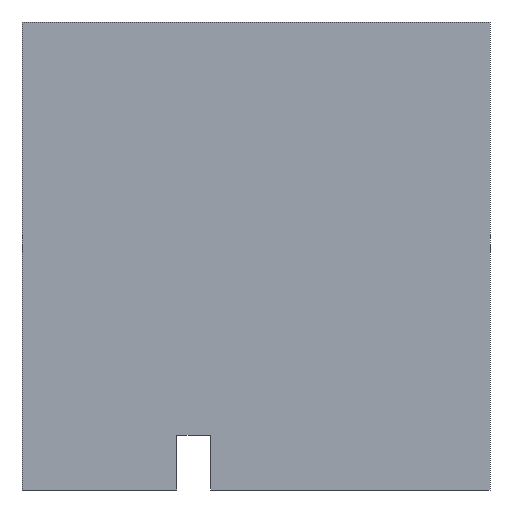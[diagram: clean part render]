
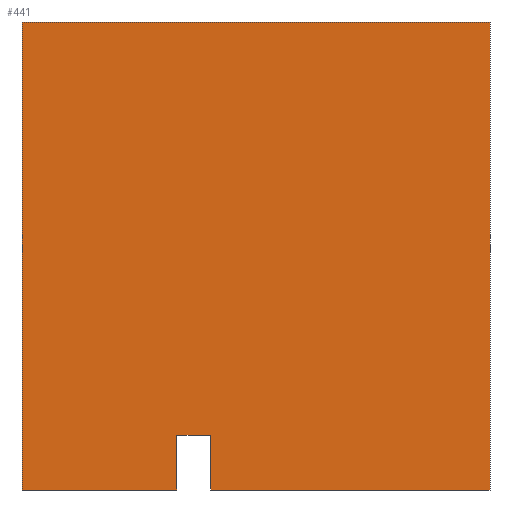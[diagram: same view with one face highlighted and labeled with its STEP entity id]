
A CAD part, front view. The second image highlights one B-rep face of the part: STEP entity #441.
In plain terms, the highlighted planar face has unit normal (0, -1, 0).
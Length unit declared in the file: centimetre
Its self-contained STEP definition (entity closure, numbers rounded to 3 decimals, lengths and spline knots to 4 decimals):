
#69 = ORIENTED_EDGE ( 'NONE', *, *, #763, .T. ) ;
#81 = DIRECTION ( 'NONE',  ( 0., 0., -1. ) ) ;
#107 = DIRECTION ( 'NONE',  ( 0., 0., -1. ) ) ;
#128 = VERTEX_POINT ( 'NONE', #391 ) ;
#134 = LINE ( 'NONE', #637, #664 ) ;
#137 = VERTEX_POINT ( 'NONE', #271 ) ;
#146 = CARTESIAN_POINT ( 'NONE',  ( 330.6694, 0., 0. ) ) ;
#154 = CARTESIAN_POINT ( 'NONE',  ( 0., 0., 1000. ) ) ;
#176 = VECTOR ( 'NONE', #107, 100. ) ;
#186 = VERTEX_POINT ( 'NONE', #736 ) ;
#190 = EDGE_LOOP ( 'NONE', ( #853, #392, #537, #570, #69, #818, #708, #212 ) ) ;
#212 = ORIENTED_EDGE ( 'NONE', *, *, #588, .T. ) ;
#246 = CARTESIAN_POINT ( 'NONE',  ( 402.9059, 0., 0. ) ) ;
#251 = EDGE_CURVE ( 'NONE', #186, #137, #629, .T. ) ;
#271 = CARTESIAN_POINT ( 'NONE',  ( 330.6694, 0., 117.192 ) ) ;
#274 = VERTEX_POINT ( 'NONE', #477 ) ;
#281 = DIRECTION ( 'NONE',  ( 0., 0., 1. ) ) ;
#286 = CARTESIAN_POINT ( 'NONE',  ( 1000., 0., 1000. ) ) ;
#300 = LINE ( 'NONE', #432, #623 ) ;
#307 = DIRECTION ( 'NONE',  ( 1., 0., 0. ) ) ;
#324 = VERTEX_POINT ( 'NONE', #694 ) ;
#351 = CARTESIAN_POINT ( 'NONE',  ( 330.6694, 0., 117.192 ) ) ;
#358 = VECTOR ( 'NONE', #410, 100. ) ;
#362 = LINE ( 'NONE', #246, #176 ) ;
#364 = DIRECTION ( 'NONE',  ( 1., 0., 0. ) ) ;
#390 = VERTEX_POINT ( 'NONE', #894 ) ;
#391 = CARTESIAN_POINT ( 'NONE',  ( 402.9059, 0., 0. ) ) ;
#392 = ORIENTED_EDGE ( 'NONE', *, *, #251, .T. ) ;
#410 = DIRECTION ( 'NONE',  ( 1., 0., 0. ) ) ;
#428 = DIRECTION ( 'NONE',  ( 1., 0., 0. ) ) ;
#432 = CARTESIAN_POINT ( 'NONE',  ( 0., 0., 1000. ) ) ;
#441 = ADVANCED_FACE ( 'NONE', ( #655 ), #706, .F. ) ;
#445 = LINE ( 'NONE', #724, #557 ) ;
#459 = EDGE_CURVE ( 'NONE', #660, #128, #362, .T. ) ;
#477 = CARTESIAN_POINT ( 'NONE',  ( 1000., 0., 0. ) ) ;
#482 = EDGE_CURVE ( 'NONE', #390, #716, #300, .T. ) ;
#537 = ORIENTED_EDGE ( 'NONE', *, *, #882, .T. ) ;
#557 = VECTOR ( 'NONE', #805, 100. ) ;
#570 = ORIENTED_EDGE ( 'NONE', *, *, #459, .T. ) ;
#572 = DIRECTION ( 'NONE',  ( 0., 1., 0. ) ) ;
#588 = EDGE_CURVE ( 'NONE', #390, #324, #445, .T. ) ;
#623 = VECTOR ( 'NONE', #307, 100. ) ;
#629 = LINE ( 'NONE', #146, #835 ) ;
#632 = LINE ( 'NONE', #780, #691 ) ;
#637 = CARTESIAN_POINT ( 'NONE',  ( 1000., 0., 1000. ) ) ;
#645 = CARTESIAN_POINT ( 'NONE',  ( 0., 0., 0. ) ) ;
#655 = FACE_OUTER_BOUND ( 'NONE', #190, .T. ) ;
#660 = VERTEX_POINT ( 'NONE', #709 ) ;
#664 = VECTOR ( 'NONE', #81, 100. ) ;
#689 = EDGE_CURVE ( 'NONE', #324, #186, #632, .T. ) ;
#691 = VECTOR ( 'NONE', #364, 100. ) ;
#694 = CARTESIAN_POINT ( 'NONE',  ( 0., 0., 0. ) ) ;
#695 = LINE ( 'NONE', #351, #358 ) ;
#706 = PLANE ( 'NONE',  #720 ) ;
#708 = ORIENTED_EDGE ( 'NONE', *, *, #482, .F. ) ;
#709 = CARTESIAN_POINT ( 'NONE',  ( 402.9059, 0., 117.192 ) ) ;
#710 = DIRECTION ( 'NONE',  ( 0., 0., 1. ) ) ;
#712 = LINE ( 'NONE', #645, #867 ) ;
#716 = VERTEX_POINT ( 'NONE', #286 ) ;
#720 = AXIS2_PLACEMENT_3D ( 'NONE', #154, #572, #710 ) ;
#724 = CARTESIAN_POINT ( 'NONE',  ( 0., 0., 1000. ) ) ;
#736 = CARTESIAN_POINT ( 'NONE',  ( 330.6694, 0., 0. ) ) ;
#763 = EDGE_CURVE ( 'NONE', #128, #274, #712, .T. ) ;
#780 = CARTESIAN_POINT ( 'NONE',  ( 0., 0., 0. ) ) ;
#787 = EDGE_CURVE ( 'NONE', #716, #274, #134, .T. ) ;
#805 = DIRECTION ( 'NONE',  ( 0., 0., -1. ) ) ;
#818 = ORIENTED_EDGE ( 'NONE', *, *, #787, .F. ) ;
#835 = VECTOR ( 'NONE', #281, 100. ) ;
#853 = ORIENTED_EDGE ( 'NONE', *, *, #689, .T. ) ;
#867 = VECTOR ( 'NONE', #428, 100. ) ;
#882 = EDGE_CURVE ( 'NONE', #137, #660, #695, .T. ) ;
#894 = CARTESIAN_POINT ( 'NONE',  ( 0., 0., 1000. ) ) ;
